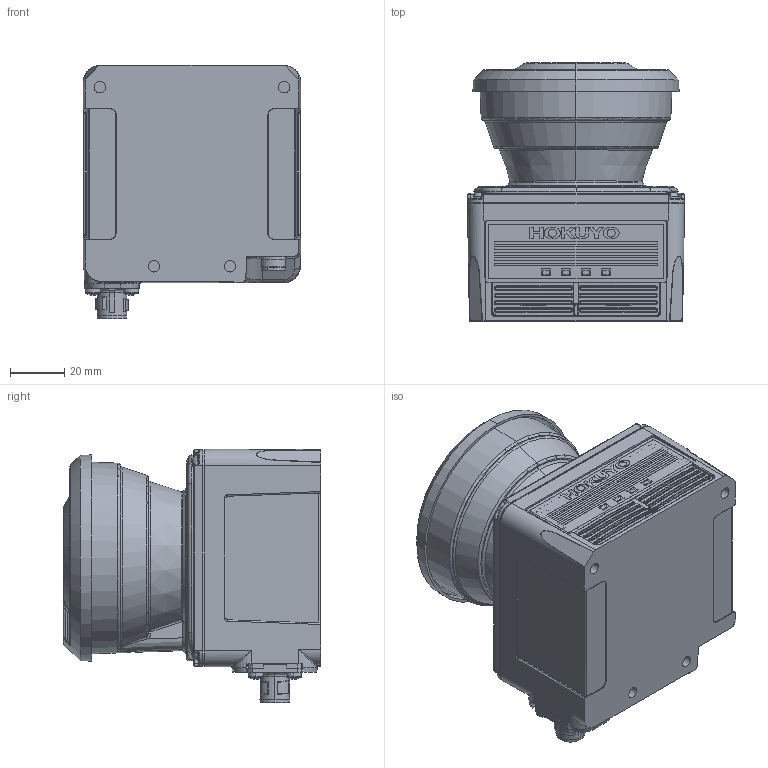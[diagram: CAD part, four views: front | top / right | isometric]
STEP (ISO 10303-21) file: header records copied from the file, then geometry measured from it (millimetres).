
FILE_DESCRIPTION (( 'STEP AP214' ), '1' );
FILE_NAME ('URM(STEP).STEP', '2019-05-08T08:23:10', ( 'hokuyo' ), ( '' ), 'SwSTEP 2.0', 'SolidWorks 2018', '' );
FILE_SCHEMA (( 'AUTOMOTIVE_DESIGN' ));
Length unit declared in the file: millimetre
Products named in the file (1): URM(STEP)
Bounding box: 80 x 95 x 93.25 mm (x, y, z)
Volume: 444708.5 mm3; surface area: 45968.9 mm2
Topology: 1 solids, 13 shells, 1833 faces, 4433 edges, 2681 vertices
Faces by surface type: bspline 565, cylinder 540, plane 480, cone 149, torus 75, sphere 24
Entity records: 96664 total; most frequent: CARTESIAN_POINT 51975, ORIENTED_EDGE 8816, DIRECTION 6552, EDGE_CURVE 4408, VERTEX_POINT 2681, AXIS2_PLACEMENT_3D 2402, EDGE_LOOP 1923, ADVANCED_FACE 1833
